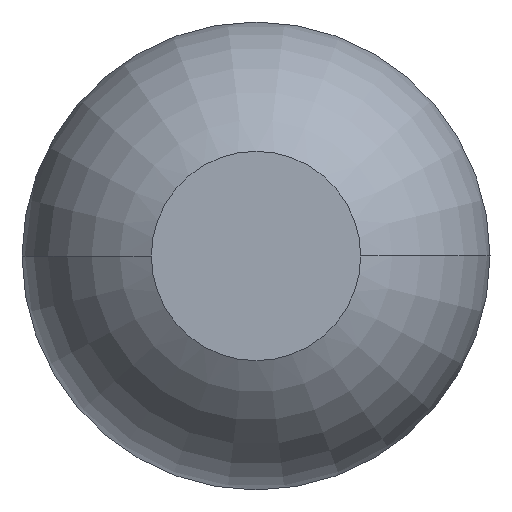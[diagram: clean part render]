
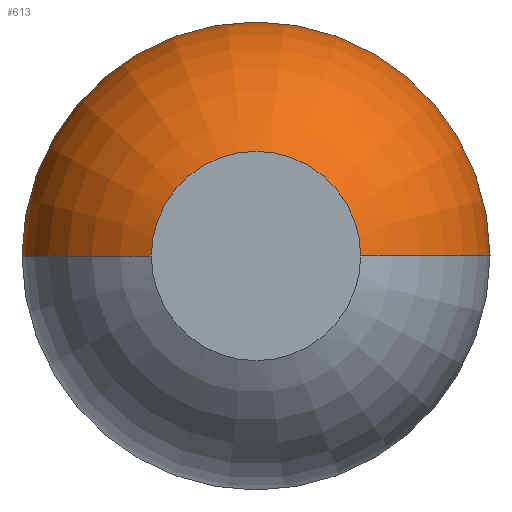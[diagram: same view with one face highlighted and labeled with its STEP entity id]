
A CAD part, left-side view. The second image highlights one B-rep face of the part: STEP entity #613.
In plain terms, the highlighted toroidal (fillet/blend) face has major radius 0.003 mm and minor radius 0.508 mm.
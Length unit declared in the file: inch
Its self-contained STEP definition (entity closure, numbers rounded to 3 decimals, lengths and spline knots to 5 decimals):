
#5 = DIRECTION ( 'NONE',  ( -1., 0., 0. ) ) ;
#15 = CIRCLE ( 'NONE', #1072, 0.02 ) ;
#95 = EDGE_CURVE ( 'NONE', #316, #989, #15, .T. ) ;
#107 = DIRECTION ( 'NONE',  ( 0., 1., 0. ) ) ;
#118 = DIRECTION ( 'NONE',  ( 1., 0., 0. ) ) ;
#145 = EDGE_LOOP ( 'NONE', ( #746, #202, #1064, #865 ) ) ;
#157 = CARTESIAN_POINT ( 'NONE',  ( 0.01792, -0.02013, 0. ) ) ;
#173 = EDGE_CURVE ( 'NONE', #1239, #1112, #310, .T. ) ;
#187 = CIRCLE ( 'NONE', #1197, 0.009 ) ;
#202 = ORIENTED_EDGE ( 'NONE', *, *, #95, .T. ) ;
#310 = CIRCLE ( 'NONE', #419, 0.02 ) ;
#316 = VERTEX_POINT ( 'NONE', #760 ) ;
#340 = DIRECTION ( 'NONE',  ( 0., 1., 0. ) ) ;
#359 = CIRCLE ( 'NONE', #400, 0.02013 ) ;
#400 = AXIS2_PLACEMENT_3D ( 'NONE', #971, #886, #340 ) ;
#401 = DIRECTION ( 'NONE',  ( 0., 0., 1. ) ) ;
#408 = CARTESIAN_POINT ( 'NONE',  ( 0.01792, -0.00013, 0. ) ) ;
#419 = AXIS2_PLACEMENT_3D ( 'NONE', #773, #1213, #5 ) ;
#585 = CARTESIAN_POINT ( 'NONE',  ( 0.01792, 0.02013, 0. ) ) ;
#613 = ADVANCED_FACE ( 'NONE', ( #654 ), #1283, .T. ) ;
#641 = EDGE_CURVE ( 'NONE', #1239, #316, #187, .T. ) ;
#654 = FACE_OUTER_BOUND ( 'NONE', #145, .T. ) ;
#746 = ORIENTED_EDGE ( 'NONE', *, *, #641, .T. ) ;
#752 = CARTESIAN_POINT ( 'NONE',  ( 0., 0., 0. ) ) ;
#760 = CARTESIAN_POINT ( 'NONE',  ( 0., -0.009, 0. ) ) ;
#773 = CARTESIAN_POINT ( 'NONE',  ( 0.01792, 0.00013, 0. ) ) ;
#787 = AXIS2_PLACEMENT_3D ( 'NONE', #869, #118, #1430 ) ;
#865 = ORIENTED_EDGE ( 'NONE', *, *, #173, .F. ) ;
#869 = CARTESIAN_POINT ( 'NONE',  ( 0.01792, 0., 0. ) ) ;
#886 = DIRECTION ( 'NONE',  ( 1., 0., 0. ) ) ;
#971 = CARTESIAN_POINT ( 'NONE',  ( 0.01792, 0., 0. ) ) ;
#989 = VERTEX_POINT ( 'NONE', #157 ) ;
#1064 = ORIENTED_EDGE ( 'NONE', *, *, #1182, .F. ) ;
#1072 = AXIS2_PLACEMENT_3D ( 'NONE', #408, #401, #1419 ) ;
#1112 = VERTEX_POINT ( 'NONE', #585 ) ;
#1182 = EDGE_CURVE ( 'NONE', #1112, #989, #359, .T. ) ;
#1197 = AXIS2_PLACEMENT_3D ( 'NONE', #752, #1208, #107 ) ;
#1207 = CARTESIAN_POINT ( 'NONE',  ( 0., 0.009, 0. ) ) ;
#1208 = DIRECTION ( 'NONE',  ( 1., 0., 0. ) ) ;
#1213 = DIRECTION ( 'NONE',  ( 0., 0., -1. ) ) ;
#1239 = VERTEX_POINT ( 'NONE', #1207 ) ;
#1283 = TOROIDAL_SURFACE ( 'NONE', #787, 0.00013, 0.02 ) ;
#1419 = DIRECTION ( 'NONE',  ( 0., -1., 0. ) ) ;
#1430 = DIRECTION ( 'NONE',  ( 0., 1., 0. ) ) ;
